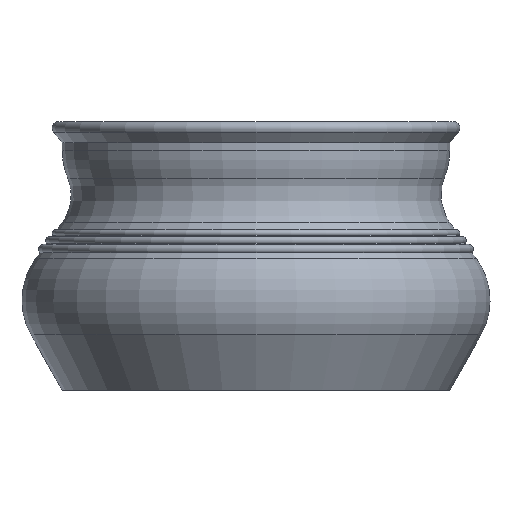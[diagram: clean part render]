
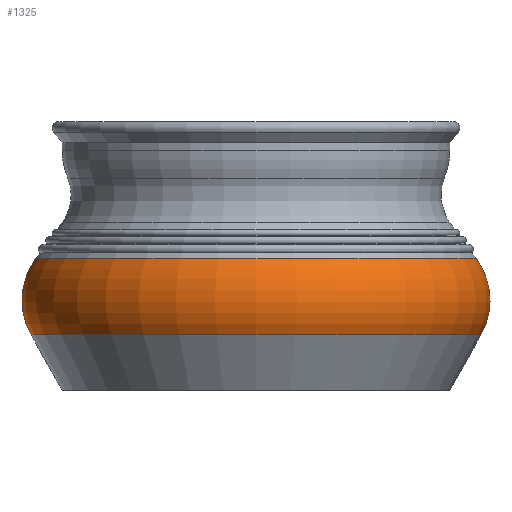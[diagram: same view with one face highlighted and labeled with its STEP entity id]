
A CAD part, front view. The second image highlights one B-rep face of the part: STEP entity #1325.
In plain terms, the highlighted toroidal (fillet/blend) face has major radius 121.641 mm and minor radius 52.359 mm.
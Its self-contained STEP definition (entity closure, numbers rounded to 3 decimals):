
#22=TOROIDAL_SURFACE('',#1505,121.641,52.359);
#166=FACE_OUTER_BOUND('',#284,.T.);
#284=EDGE_LOOP('',(#1208,#1209,#1210,#1211));
#526=CIRCLE('',#1467,167.263);
#549=CIRCLE('',#1506,163.836);
#550=CIRCLE('',#1507,52.359);
#653=VERTEX_POINT('',#2240);
#669=VERTEX_POINT('',#2303);
#818=EDGE_CURVE('',#653,#653,#526,.T.);
#849=EDGE_CURVE('',#669,#669,#549,.T.);
#850=EDGE_CURVE('',#669,#653,#550,.T.);
#1208=ORIENTED_EDGE('',*,*,#849,.F.);
#1209=ORIENTED_EDGE('',*,*,#850,.T.);
#1210=ORIENTED_EDGE('',*,*,#818,.T.);
#1211=ORIENTED_EDGE('',*,*,#850,.F.);
#1325=ADVANCED_FACE('',(#166),#22,.T.);
#1467=AXIS2_PLACEMENT_3D('',#2241,#1837,#1838);
#1505=AXIS2_PLACEMENT_3D('',#2302,#1921,#1922);
#1506=AXIS2_PLACEMENT_3D('',#2304,#1923,#1924);
#1507=AXIS2_PLACEMENT_3D('',#2305,#1925,#1926);
#1837=DIRECTION('center_axis',(0.,0.,1.));
#1838=DIRECTION('ref_axis',(1.,0.,0.));
#1921=DIRECTION('center_axis',(0.,0.,1.));
#1922=DIRECTION('ref_axis',(1.,0.,0.));
#1923=DIRECTION('center_axis',(0.,0.,1.));
#1924=DIRECTION('ref_axis',(1.,0.,0.));
#1925=DIRECTION('center_axis',(0.,-1.,0.));
#1926=DIRECTION('ref_axis',(-1.,0.,0.));
#2240=CARTESIAN_POINT('',(-167.263,0.,41.308));
#2241=CARTESIAN_POINT('Origin',(0.,0.,41.308));
#2302=CARTESIAN_POINT('Origin',(0.,0.,67.));
#2303=CARTESIAN_POINT('',(-163.836,0.,98.));
#2304=CARTESIAN_POINT('Origin',(0.,0.,98.));
#2305=CARTESIAN_POINT('Origin',(-121.641,0.,
67.));
